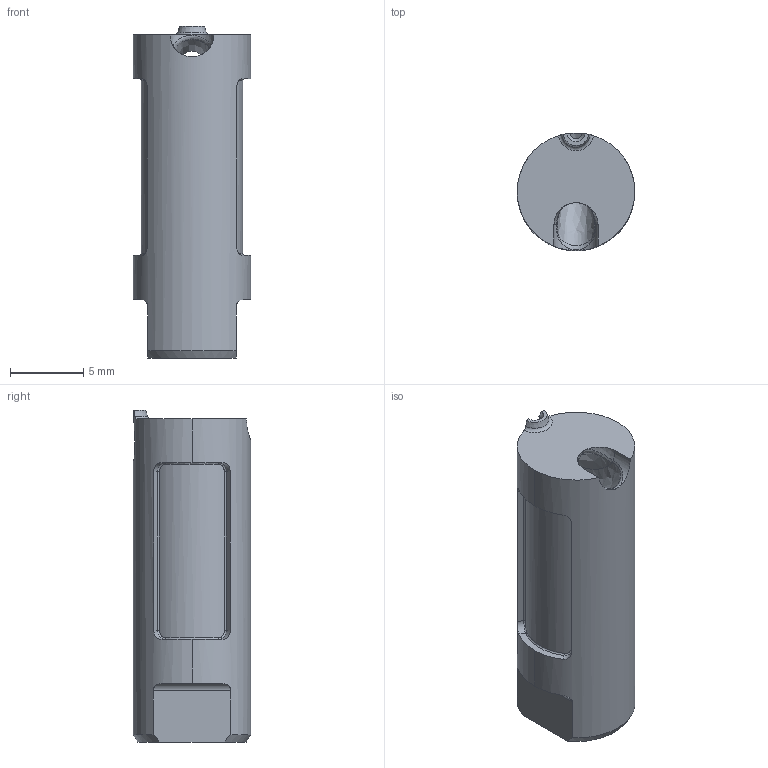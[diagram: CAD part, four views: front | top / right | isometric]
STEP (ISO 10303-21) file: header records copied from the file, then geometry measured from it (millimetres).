
FILE_DESCRIPTION((''),'2;1');
FILE_NAME('TGR8-08-S2','2007-11-27T',('tmeister'),(''),'PRO/ENGINEER BY PARAMETRIC TECHNOLOGY CORPORATION, 2002390','PRO/ENGINEER BY PARAMETRIC TECHNOLOGY CORPORATION, 2002390','');
FILE_SCHEMA(('CONFIG_CONTROL_DESIGN'));
Length unit declared in the file: millimetre
Products named in the file (1): TGR8-08-S2
Bounding box: 8 x 8 x 22.6 mm (x, y, z)
Volume: 822.4 mm3; surface area: 1036.8 mm2
Topology: 1 solids, 2 shells, 73 faces, 262 edges, 189 vertices
Faces by surface type: cylinder 25, bspline 18, plane 16, cone 8, torus 3, sphere 3
Entity records: 5055 total; most frequent: CARTESIAN_POINT 3116, ORIENTED_EDGE 372, DIRECTION 336, EDGE_CURVE 188, AXIS2_PLACEMENT_3D 130, VERTEX_POINT 117, B_SPLINE_CURVE_WITH_KNOTS 110, VECTOR 76
